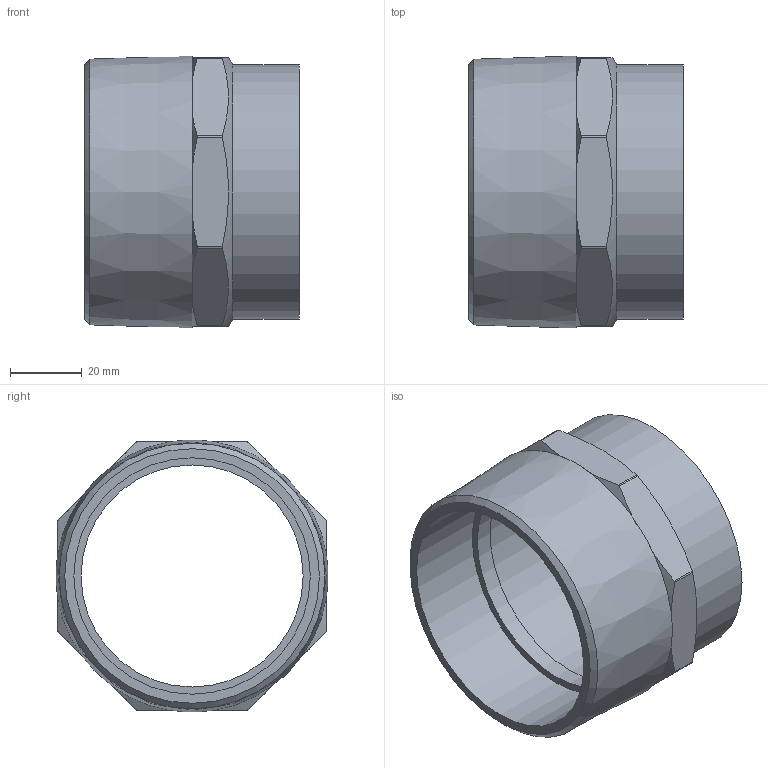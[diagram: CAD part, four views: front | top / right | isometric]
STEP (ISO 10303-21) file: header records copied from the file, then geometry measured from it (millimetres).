
FILE_DESCRIPTION((''),'2;1');
FILE_NAME('\\Lg50001\Groups\SANHA Legnica\Engineering\Public\RYSUNKI\SANHA POLSKA\4243G\step\14243_64-212(4).stp','2008-08-27T11:03:31',('pajchrowski'),(''),'Autodesk Inventor 2008','Autodesk Inventor 2008','');
FILE_SCHEMA(('AUTOMOTIVE_DESIGN { 1 0 10303 214 1 1 1 1 }'));
Length unit declared in the file: millimetre
Products named in the file (1): 14243_64-212(4)
Bounding box: 60 x 75.91 x 75.86 mm (x, y, z)
Volume: 61828.8 mm3; surface area: 28743.5 mm2
Topology: 1 solids, 1 shells, 43 faces, 99 edges, 60 vertices
Faces by surface type: plane 20, cylinder 12, cone 11
Full cylindrical faces by diameter (mm): 62 x1, 64 x1, 66 x1, 71 x1
Entity records: 1164 total; most frequent: CARTESIAN_POINT 240, DIRECTION 196, ORIENTED_EDGE 180, EDGE_CURVE 90, AXIS2_PLACEMENT_3D 86, VERTEX_POINT 58, EDGE_LOOP 54, FACE_OUTER_BOUND 43
